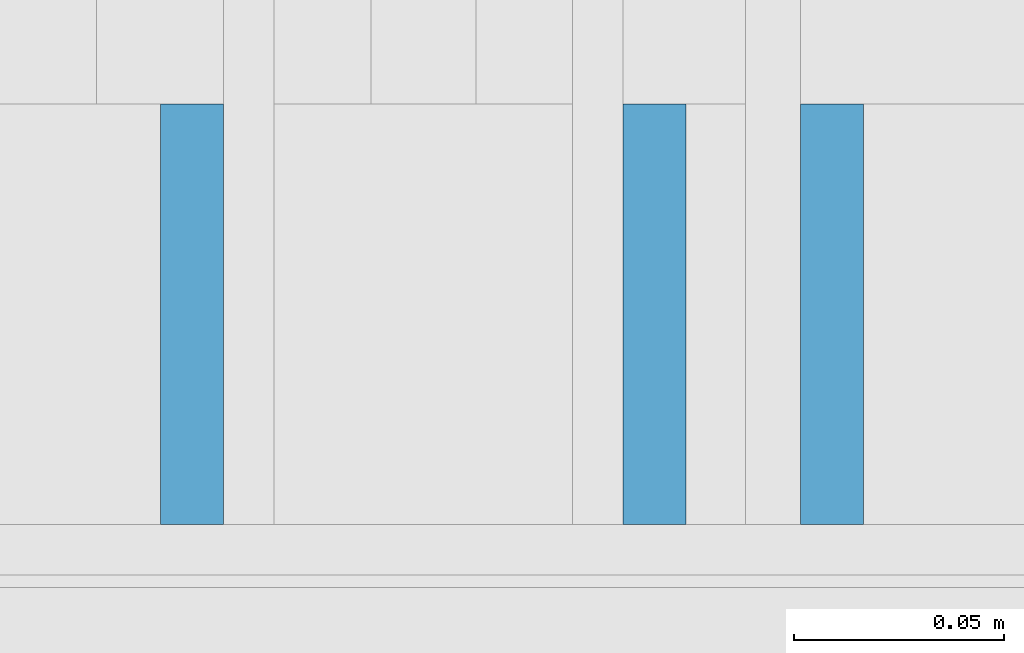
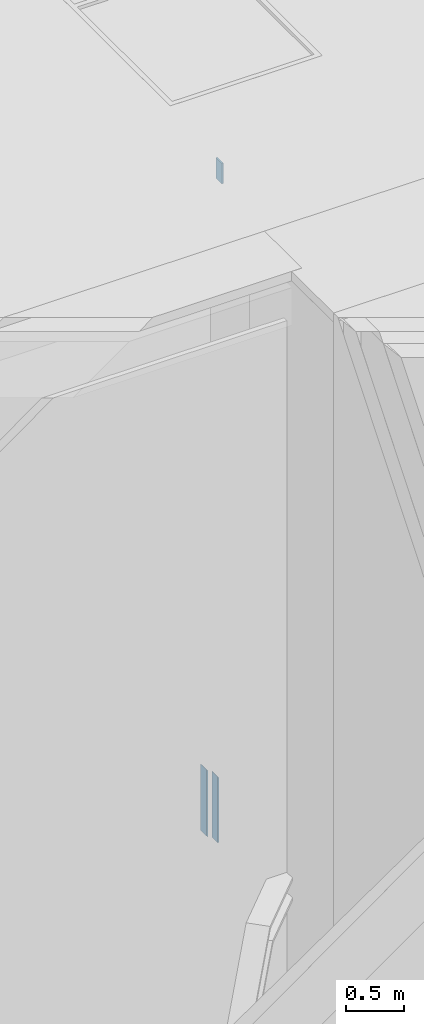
# One storey, part 175 of 583: 3 building element parts, 2 elements without a shape of their own.
"""IFC2X3 building model written with IfcOpenShell, lengths in metres."""

import ifcopenshell
import ifcopenshell.guid

model = None  # the IFC model being written
_history = None  # IfcOwnerHistory: only IFC2X3 demands one
_inside = {}  # id of a spatial element -> (the spatial element, [elements in it])
_under = {}  # id of a project, library or spatial element -> (it, [spatial elements below it])
_declared = {}  # id of a project -> (the project, [libraries it declares])
_typed = {}  # id of a type object -> (the type object, [elements of that type])
_made_of = {}  # id of a material, layer set ... -> (it, [elements and type objects made of it])


def new_model(schema):
    """Start an empty IFC model of exactly this schema.

    Asked for "IFC4X3", IfcOpenShell would pick the latest addendum, in which some entities
    have other attributes; the version numbers below select the first issue.
    IFC2X3 requires an IfcOwnerHistory on every rooted entity: one is made here for all.
    """
    global model, _history
    if schema == "IFC4X3":
        model = ifcopenshell.file(schema_version=(4, 3, 0, 0))
    else:
        model = ifcopenshell.file(schema=schema)
    _inside.clear()
    _under.clear()
    _declared.clear()
    _typed.clear()
    _made_of.clear()
    _history = None
    if model.schema == "IFC2X3":
        org = make("IfcOrganization", Name="unknown")
        user = make(
            "IfcPersonAndOrganization",
            ThePerson=make("IfcPerson", FamilyName="unknown"),
            TheOrganization=org,
        )
        app = make(
            "IfcApplication",
            ApplicationDeveloper=org,
            Version="unknown",
            ApplicationFullName="unknown",
            ApplicationIdentifier="unknown",
        )
        _history = make(
            "IfcOwnerHistory",
            OwningUser=user,
            OwningApplication=app,
            ChangeAction="ADDED",
            CreationDate=0,
        )
    return model


def make(cls, **values):
    """One entity of the class cls with the attributes given. An attribute that is None is left unset."""
    return model.create_entity(
        cls, **{name: value for name, value in values.items() if value is not None}
    )


def entity(cls, *values):
    """Any entity or typed value of the class cls, its attributes in the order of the schema. None: left unset."""
    e = model.create_entity(cls)
    for i, value in enumerate(values):
        if value is not None:
            e[i] = value
    return e


def rooted(cls, **values):
    """An entity with a GlobalId (a new one), such as an element, a storey or a relation."""
    return make(cls, GlobalId=ifcopenshell.guid.new(), OwnerHistory=_history, **values)


def si_unit(unit_type, name, prefix=None):
    """IfcSIUnit, for example si_unit("LENGTHUNIT", "METRE", prefix="MILLI")."""
    return make("IfcSIUnit", UnitType=unit_type, Prefix=prefix, Name=name)


def converted_unit(unit_type, name, factor, base, dimensions=None, offset=None):
    """IfcConversionBasedUnit, such as the inch: factor (a typed value) times the base unit."""
    return make(
        "IfcConversionBasedUnit"
        if offset is None
        else "IfcConversionBasedUnitWithOffset",
        ConversionOffset=offset,
        Dimensions=None
        if dimensions is None
        else entity("IfcDimensionalExponents", *dimensions),
        UnitType=unit_type,
        Name=name,
        ConversionFactor=make(
            "IfcMeasureWithUnit", ValueComponent=factor, UnitComponent=base
        ),
    )


def derived_unit(unit_type, elements):
    """IfcDerivedUnit: a product of units, each with its exponent."""
    return make(
        "IfcDerivedUnit",
        Elements=[
            make("IfcDerivedUnitElement", Unit=unit, Exponent=power)
            for unit, power in elements
        ],
        UnitType=unit_type,
    )


def money_unit(currency):
    """IfcMonetaryUnit."""
    return make("IfcMonetaryUnit", Currency=currency)


def assignment(units):
    """IfcUnitAssignment: the units of a project."""
    return None if units is None else make("IfcUnitAssignment", Units=units)


def point(xyz):
    """IfcCartesianPoint."""
    return None if xyz is None else make("IfcCartesianPoint", Coordinates=xyz)


def direction(xyz):
    """IfcDirection."""
    return None if xyz is None else make("IfcDirection", DirectionRatios=xyz)


def frame(location, z_axis=None, x_axis=None):
    """IfcAxis2Placement3D, a coordinate frame: its origin and axes. An axis left out is left unset."""
    return make(
        "IfcAxis2Placement3D",
        Location=point(location),
        Axis=direction(z_axis),
        RefDirection=direction(x_axis),
    )


def frame_2d(location, x_axis=None):
    """IfcAxis2Placement2D, a coordinate frame in the plane: its origin and x axis."""
    return make(
        "IfcAxis2Placement2D", Location=point(location), RefDirection=direction(x_axis)
    )


def origin_with_axes():
    """The frame at (0, 0, 0) with the z axis (0, 0, 1) and the x axis (1, 0, 0) written out."""
    return frame((0.0, 0.0, 0.0), z_axis=(0.0, 0.0, 1.0), x_axis=(1.0, 0.0, 0.0))


def place(relative_to, where):
    """IfcLocalPlacement: puts the frame where relative to a parent placement (None: the world)."""
    return make(
        "IfcLocalPlacement", PlacementRelTo=relative_to, RelativePlacement=where
    )


def context(
    kind, dimensions, precision=None, world=None, true_north=None, identifier=None
):
    """IfcGeometricRepresentationContext, for example the 3D "Model" context."""
    return make(
        "IfcGeometricRepresentationContext",
        ContextIdentifier=identifier,
        ContextType=kind,
        CoordinateSpaceDimension=dimensions,
        Precision=precision,
        WorldCoordinateSystem=world,
        TrueNorth=true_north,
    )


def subcontext(parent, identifier, kind, view, scale=None):
    """IfcGeometricRepresentationSubContext, for example "Body" below "Model"."""
    return make(
        "IfcGeometricRepresentationSubContext",
        ContextIdentifier=identifier,
        ContextType=kind,
        ParentContext=parent,
        TargetScale=scale,
        TargetView=view,
    )


def project(units=None, contexts=None):
    """IfcProject with its units and contexts."""
    return rooted(
        "IfcProject",
        Name="project",
        RepresentationContexts=contexts,
        UnitsInContext=assignment(units),
    )


def spatial(cls, under=None, at=None, **own):
    """A site, building, storey or space (cls), placed at a placement, below another one or the project."""
    s = rooted(cls, ObjectPlacement=at, **own)
    if under is not None:
        _under.setdefault(under.id(), (under, []))[1].append(s)
    return s


def polyline(points):
    """IfcPolyline through the points."""
    return make("IfcPolyline", Points=[point(p) for p in points])


def profile(cls, at=None, kind="AREA", **sizes):
    """A parametric profile (cls). Its sizes go by their IFC names, for example OverallWidth=200.0."""
    return make(cls, ProfileType=kind, Position=at, **sizes)


def rectangle(**sizes):
    """IfcRectangleProfileDef."""
    return profile("IfcRectangleProfileDef", **sizes)


def outline(outer, holes=None, kind="AREA"):
    """IfcArbitraryClosedProfileDef: a profile drawn as a closed curve; with holes, ...WithVoids."""
    if holes is None:
        return make("IfcArbitraryClosedProfileDef", ProfileType=kind, OuterCurve=outer)
    return make(
        "IfcArbitraryProfileDefWithVoids",
        ProfileType=kind,
        OuterCurve=outer,
        InnerCurves=holes,
    )


def extrude(swept, where, along, depth):
    """IfcExtrudedAreaSolid: the profile swept, set in the frame where, extruded along a direction by depth."""
    return make(
        "IfcExtrudedAreaSolid",
        SweptArea=swept,
        Position=where,
        ExtrudedDirection=direction(along),
        Depth=depth,
    )


def shape(context_of_items, identifier, shape_type, items):
    """IfcShapeRepresentation: the items that make up one representation, for example the "Body"."""
    return make(
        "IfcShapeRepresentation",
        ContextOfItems=context_of_items,
        RepresentationIdentifier=identifier,
        RepresentationType=shape_type,
        Items=items,
    )


def material(Name=None, Category=None):
    """IfcMaterial."""
    return make("IfcMaterial", Name=Name, Category=Category)


def made_of(thing, what):
    """Note that an element or type object is made of a material, layer set ...; save() writes the relation."""
    if what is not None:
        _made_of.setdefault(what.id(), (what, []))[1].append(thing)
    return thing


def type_object(cls, material=None, **own):
    """A type object (cls), such as IfcWallType, which elements share."""
    return made_of(rooted(cls, **own), material)


def element(
    cls,
    number,
    at=None,
    inside=None,
    cuts=None,
    type_object=None,
    material=None,
    context=None,
    identifier="Body",
    shape_type=None,
    held_by="IfcProductDefinitionShape",
    body=None,
    shapes=None,
    **own,
):
    """One element of the class cls, such as IfcWall. Its Tag is "e" and its number.

    at: its placement. inside: the storey or other place that contains it. cuts: it is an
    opening in that element (IfcRelVoidsElement). A single representation is given by context,
    identifier, shape_type and body (its items); several are given by shapes. held_by: the class
    of the entity that holds the representations. save() writes the other relations.
    """
    e = rooted(cls, Tag="e%d" % number, ObjectPlacement=at, **own)
    if body is not None:
        shapes = [shape(context, identifier, shape_type, body)]
    if shapes is not None:
        e.Representation = make(held_by, Representations=shapes)
    if inside is not None:
        _inside.setdefault(inside.id(), (inside, []))[1].append(e)
    if cuts is not None:
        rooted(
            "IfcRelVoidsElement", RelatingBuildingElement=cuts, RelatedOpeningElement=e
        )
    if type_object is not None:
        _typed.setdefault(type_object.id(), (type_object, []))[1].append(e)
    return made_of(e, material)


def aggregate(whole, parts):
    """IfcRelAggregates: a whole, such as a stair, and the parts it consists of."""
    return rooted("IfcRelAggregates", RelatingObject=whole, RelatedObjects=parts)


def save(model, path):
    """Write the relations noted so far, then the file.

    IfcRelAggregates (storeys below a building ...), IfcRelContainedInSpatialStructure (elements
    in a storey), IfcRelDefinesByType, IfcRelAssociatesMaterial and IfcRelDeclares: one each for
    every whole, place, type object, material and project.
    """
    for whole, parts in _under.values():
        aggregate(whole, parts)
    for where, things in _inside.values():
        rooted(
            "IfcRelContainedInSpatialStructure",
            RelatedElements=things,
            RelatingStructure=where,
        )
    for kind, things in _typed.values():
        rooted("IfcRelDefinesByType", RelatedObjects=things, RelatingType=kind)
    for what, things in _made_of.values():
        rooted("IfcRelAssociatesMaterial", RelatedObjects=things, RelatingMaterial=what)
    for by, libraries in _declared.values():
        rooted("IfcRelDeclares", RelatingContext=by, RelatedDefinitions=libraries)
    model.write(path)


model = new_model("IFC2X3")

# Units and contexts
model_context = context("Model", 3, precision=1e-05, world=origin_with_axes(), true_north=direction((0.0, 1.0)))
body_context = subcontext(model_context, "Body", "Model", "MODEL_VIEW", scale=1.0)
ifc_project = project(units=[si_unit("LENGTHUNIT", "METRE"), si_unit("AREAUNIT", "SQUARE_METRE"), si_unit("VOLUMEUNIT", "CUBIC_METRE"), si_unit("ABSORBEDDOSEUNIT", "GRAY"), si_unit("AMOUNTOFSUBSTANCEUNIT", "MOLE"), si_unit("DOSEEQUIVALENTUNIT", "SIEVERT"), si_unit("ELECTRICCAPACITANCEUNIT", "FARAD"), si_unit("ELECTRICCHARGEUNIT", "COULOMB"), si_unit("ELECTRICCONDUCTANCEUNIT", "SIEMENS"), si_unit("ELECTRICCURRENTUNIT", "AMPERE"), si_unit("ELECTRICRESISTANCEUNIT", "OHM"), si_unit("ELECTRICVOLTAGEUNIT", "VOLT"), si_unit("ENERGYUNIT", "JOULE"), si_unit("FORCEUNIT", "NEWTON"), si_unit("FREQUENCYUNIT", "HERTZ"), si_unit("ILLUMINANCEUNIT", "LUX"), si_unit("INDUCTANCEUNIT", "HENRY"), si_unit("LUMINOUSFLUXUNIT", "LUMEN"), si_unit("LUMINOUSINTENSITYUNIT", "CANDELA"), si_unit("MAGNETICFLUXDENSITYUNIT", "TESLA"), si_unit("MAGNETICFLUXUNIT", "WEBER"), si_unit("MASSUNIT", "GRAM"), converted_unit("PLANEANGLEUNIT", "degree", entity("IfcReal", 0.0174532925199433), si_unit("PLANEANGLEUNIT", "RADIAN"), dimensions=[0, 0, 0, 0, 0, 0, 0]), si_unit("POWERUNIT", "WATT"), si_unit("PRESSUREUNIT", "PASCAL"), si_unit("RADIOACTIVITYUNIT", "BECQUEREL"), si_unit("SOLIDANGLEUNIT", "STERADIAN"), si_unit("THERMODYNAMICTEMPERATUREUNIT", "KELVIN"), si_unit("TIMEUNIT", "SECOND"), derived_unit("ACCELERATIONUNIT", [(si_unit("LENGTHUNIT", "METRE"), 1), (si_unit("TIMEUNIT", "SECOND"), -2)]), derived_unit("ANGULARVELOCITYUNIT", [(converted_unit("PLANEANGLEUNIT", "degree", entity("IfcReal", 0.0174532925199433), si_unit("PLANEANGLEUNIT", "RADIAN"), dimensions=[0, 0, 0, 0, 0, 0, 0]), 1), (si_unit("TIMEUNIT", "SECOND"), -1)]), derived_unit("CURVATUREUNIT", [(converted_unit("PLANEANGLEUNIT", "degree", entity("IfcReal", 0.0174532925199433), si_unit("PLANEANGLEUNIT", "RADIAN"), dimensions=[0, 0, 0, 0, 0, 0, 0]), 1), (si_unit("LENGTHUNIT", "METRE"), -1)]), derived_unit("DYNAMICVISCOSITYUNIT", [(si_unit("PRESSUREUNIT", "PASCAL"), 1), (si_unit("TIMEUNIT", "SECOND"), 1)]), derived_unit("HEATFLUXDENSITYUNIT", [(si_unit("POWERUNIT", "WATT"), 1), (si_unit("LENGTHUNIT", "METRE"), -2)]), derived_unit("HEATINGVALUEUNIT", [(si_unit("ENERGYUNIT", "JOULE"), 1), (si_unit("MASSUNIT", "GRAM"), -1)]), derived_unit("INTEGERCOUNTRATEUNIT", [(si_unit("TIMEUNIT", "SECOND"), -1)]), derived_unit("IONCONCENTRATIONUNIT", [(si_unit("MASSUNIT", "GRAM"), 1), (si_unit("VOLUMEUNIT", "CUBIC_METRE"), -1)]), derived_unit("ISOTHERMALMOISTURECAPACITYUNIT", [(si_unit("VOLUMEUNIT", "CUBIC_METRE"), 1), (si_unit("MASSUNIT", "GRAM"), -1)]), derived_unit("KINEMATICVISCOSITYUNIT", [(si_unit("AREAUNIT", "SQUARE_METRE"), 1), (si_unit("TIMEUNIT", "SECOND"), -1)]), derived_unit("LINEARFORCEUNIT", [(si_unit("FORCEUNIT", "NEWTON"), 1), (si_unit("LENGTHUNIT", "METRE"), -1)]), derived_unit("LINEARMOMENTUNIT", [(si_unit("FORCEUNIT", "NEWTON"), 1), (si_unit("LENGTHUNIT", "METRE"), -1)]), derived_unit("LINEARSTIFFNESSUNIT", [(si_unit("FORCEUNIT", "NEWTON"), 1), (si_unit("LENGTHUNIT", "METRE"), -1)]), derived_unit("LINEARVELOCITYUNIT", [(si_unit("LENGTHUNIT", "METRE"), 1), (si_unit("TIMEUNIT", "SECOND"), -1)]), derived_unit("LUMINOUSINTENSITYDISTRIBUTIONUNIT", [(si_unit("LUMINOUSINTENSITYUNIT", "CANDELA"), 1), (si_unit("LUMINOUSFLUXUNIT", "LUMEN"), -1)]), derived_unit("MASSDENSITYUNIT", [(si_unit("MASSUNIT", "GRAM"), 1), (si_unit("VOLUMEUNIT", "CUBIC_METRE"), -1)]), derived_unit("MASSFLOWRATEUNIT", [(si_unit("MASSUNIT", "GRAM"), 1), (si_unit("TIMEUNIT", "SECOND"), -1)]), derived_unit("MASSPERLENGTHUNIT", [(si_unit("MASSUNIT", "GRAM"), 1), (si_unit("LENGTHUNIT", "METRE"), -1)]), derived_unit("MODULUSOFELASTICITYUNIT", [(si_unit("FORCEUNIT", "NEWTON"), 1), (si_unit("AREAUNIT", "SQUARE_METRE"), -1)]), derived_unit("MODULUSOFLINEARSUBGRADEREACTIONUNIT", [(si_unit("FORCEUNIT", "NEWTON"), 1), (si_unit("LENGTHUNIT", "METRE"), -2)]), derived_unit("MODULUSOFROTATIONALSUBGRADEREACTIONUNIT", [(si_unit("FORCEUNIT", "NEWTON"), 1), (si_unit("LENGTHUNIT", "METRE"), 1)]), derived_unit("MODULUSOFSUBGRADEREACTIONUNIT", [(si_unit("FORCEUNIT", "NEWTON"), 1), (si_unit("VOLUMEUNIT", "CUBIC_METRE"), -1)]), derived_unit("MOISTUREDIFFUSIVITYUNIT", [(si_unit("VOLUMEUNIT", "CUBIC_METRE"), 1), (si_unit("TIMEUNIT", "SECOND"), -1)]), derived_unit("MOLECULARWEIGHTUNIT", [(si_unit("MASSUNIT", "GRAM"), 1), (si_unit("AMOUNTOFSUBSTANCEUNIT", "MOLE"), -1)]), derived_unit("PLANARFORCEUNIT", [(si_unit("FORCEUNIT", "NEWTON"), 1), (si_unit("LENGTHUNIT", "METRE"), -2)]), derived_unit("ROTATIONALFREQUENCYUNIT", [(si_unit("TIMEUNIT", "SECOND"), -1)]), derived_unit("ROTATIONALMASSUNIT", [(si_unit("MASSUNIT", "GRAM"), 1), (si_unit("LENGTHUNIT", "METRE"), 2)]), derived_unit("ROTATIONALSTIFFNESSUNIT", [(si_unit("FORCEUNIT", "NEWTON"), 1), (si_unit("LENGTHUNIT", "METRE"), 1), (converted_unit("PLANEANGLEUNIT", "degree", entity("IfcReal", 0.0174532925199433), si_unit("PLANEANGLEUNIT", "RADIAN"), dimensions=[0, 0, 0, 0, 0, 0, 0]), -1)]), derived_unit("SECTIONAREAINTEGRALUNIT", [(si_unit("LENGTHUNIT", "METRE"), 5)]), derived_unit("SECTIONMODULUSUNIT", [(si_unit("LENGTHUNIT", "METRE"), 3)]), derived_unit("SHEARMODULUSUNIT", [(si_unit("FORCEUNIT", "NEWTON"), 1), (si_unit("AREAUNIT", "SQUARE_METRE"), -1)]), derived_unit("SOUNDPOWERUNIT", [(si_unit("ENERGYUNIT", "JOULE"), 1), (si_unit("TIMEUNIT", "SECOND"), -1)]), derived_unit("SPECIFICHEATCAPACITYUNIT", [(si_unit("FORCEUNIT", "NEWTON"), 1), (si_unit("MASSUNIT", "GRAM"), -1), (si_unit("THERMODYNAMICTEMPERATUREUNIT", "KELVIN"), -1)]), derived_unit("TEMPERATUREGRADIENTUNIT", [(si_unit("THERMODYNAMICTEMPERATUREUNIT", "KELVIN"), 1), (si_unit("LENGTHUNIT", "METRE"), -1)]), derived_unit("THERMALADMITTANCEUNIT", [(si_unit("POWERUNIT", "WATT"), 1), (si_unit("AREAUNIT", "SQUARE_METRE"), -1), (si_unit("THERMODYNAMICTEMPERATUREUNIT", "KELVIN"), -1)]), derived_unit("THERMALCONDUCTANCEUNIT", [(si_unit("POWERUNIT", "WATT"), 1), (si_unit("LENGTHUNIT", "METRE"), -1), (si_unit("THERMODYNAMICTEMPERATUREUNIT", "KELVIN"), -1)]), derived_unit("THERMALEXPANSIONCOEFFICIENTUNIT", [(si_unit("THERMODYNAMICTEMPERATUREUNIT", "KELVIN"), -1)]), derived_unit("THERMALRESISTANCEUNIT", [(si_unit("AREAUNIT", "SQUARE_METRE"), 1), (si_unit("POWERUNIT", "WATT"), -1)]), derived_unit("THERMALTRANSMITTANCEUNIT", [(si_unit("POWERUNIT", "WATT"), 1), (si_unit("AREAUNIT", "SQUARE_METRE"), -1), (si_unit("THERMODYNAMICTEMPERATUREUNIT", "KELVIN"), -1)]), derived_unit("TORQUEUNIT", [(si_unit("FORCEUNIT", "NEWTON"), 1), (si_unit("LENGTHUNIT", "METRE"), 1)]), derived_unit("VAPORPERMEABILITYUNIT", [(si_unit("MASSUNIT", "GRAM"), 1), (si_unit("TIMEUNIT", "SECOND"), -1)]), derived_unit("VOLUMETRICFLOWRATEUNIT", [(si_unit("VOLUMEUNIT", "CUBIC_METRE"), 1), (si_unit("TIMEUNIT", "SECOND"), -1)]), derived_unit("WARPINGCONSTANTUNIT", [(si_unit("LENGTHUNIT", "METRE"), 6)]), derived_unit("WARPINGMOMENTUNIT", [(si_unit("FORCEUNIT", "NEWTON"), 1), (si_unit("LENGTHUNIT", "METRE"), 2)]), money_unit("GBP")], contexts=[model_context])

# Site, building, storey
site_placement = place(None, origin_with_axes())
site = spatial("IfcSite", under=ifc_project, at=site_placement, Name="Site", CompositionType="ELEMENT")
building_placement = place(site_placement, origin_with_axes())
building = spatial("IfcBuilding", under=site, at=building_placement, Name="Building01", CompositionType="ELEMENT")
storey_placement = place(building_placement, frame((0.0, 0.0, 20.78), z_axis=(0.0, 0.0, 1.0), x_axis=(1.0, 0.0, 0.0)))
storey = spatial("IfcBuildingStorey", under=building, at=storey_placement, Name="RL", CompositionType="ELEMENT", Elevation=20.78)

# Wall, building element parts
wall_type_1 = type_object("IfcWallType", Name="SHE_A-Walls_Type05a_Partition_95mm_tall", PredefinedType="NOTDEFINED")
wall_1_placement = place(storey_placement, frame((3.72, 5.15, -1.005), z_axis=(0.0, 1.0, 0.0), x_axis=(0.0, 0.0, 1.0)))
wall_1 = element("IfcWall", 1, at=wall_1_placement, inside=storey, type_object=wall_type_1, Name="5A", ObjectType="SHE_A-Walls_Type05a_Partition_95mm_tall")
ifc_material = material(Name="A_BSUK_Walls_Timber")
placement = place(wall_1_placement, origin_with_axes())
building_element_part_1 = element("IfcBuildingElementPart", 2, at=placement, material=ifc_material, Name="2", context=body_context, shape_type="SweptSolid", body=[
    extrude(outline(polyline([(0.735, -0.035), (0.035, -0.035), (0.05, -0.05), (0.75, -0.05), (0.735, -0.035)])), frame((0.0, 0.0, 0.015), z_axis=(0.0, 0.0, 1.0), x_axis=(1.0, 0.0, 0.0)), (0.0, 0.0, 1.0), 0.1),
])
building_element_part_2 = element("IfcBuildingElementPart", 3, at=placement, material=ifc_material, Name="3", context=body_context, shape_type="SweptSolid", body=[
    extrude(outline(polyline([(0.625, 0.075), (-0.06, 0.075), (-0.06, 0.06), (0.64, 0.06), (0.625, 0.075)])), frame((0.0, 0.0, 0.015), z_axis=(0.0, 0.0, 1.0), x_axis=(1.0, 0.0, 0.0)), (0.0, 0.0, 1.0), 0.1),
])
aggregate(wall_1, [building_element_part_1, building_element_part_2])

# Wall, building element part
wall_type_2 = type_object("IfcWallType", Name="SHE_A-Walls_Type06d_ExternalWallInsulation_48mm", PredefinedType="NOTDEFINED")
wall_2_placement = place(storey_placement, frame((3.77418, 5.15, 5.93), z_axis=(0.0, 1.0, 0.0), x_axis=(0.0, 0.0, 1.0)))
wall_2 = element("IfcWall", 4, at=wall_2_placement, inside=storey, type_object=wall_type_2, Name="6D", ObjectType="SHE_A-Walls_Type06d_ExternalWallInsulation_48mm")
building_element_part_3_placement = place(wall_2_placement, origin_with_axes())
building_element_part_3 = element("IfcBuildingElementPart", 5, at=building_element_part_3_placement, material=ifc_material, Name="2", context=body_context, shape_type="SweptSolid", body=[
    extrude(rectangle(XDim=0.015, YDim=0.218, at=frame_2d((0.061, 0.0555), x_axis=(0.0, -1.0))), frame((0.0, 0.0, 0.015), z_axis=(0.0, 0.0, 1.0), x_axis=(1.0, 0.0, 0.0)), (0.0, 0.0, 1.0), 0.1),
])
aggregate(wall_2, [building_element_part_3])

save(model, "model.ifc")
